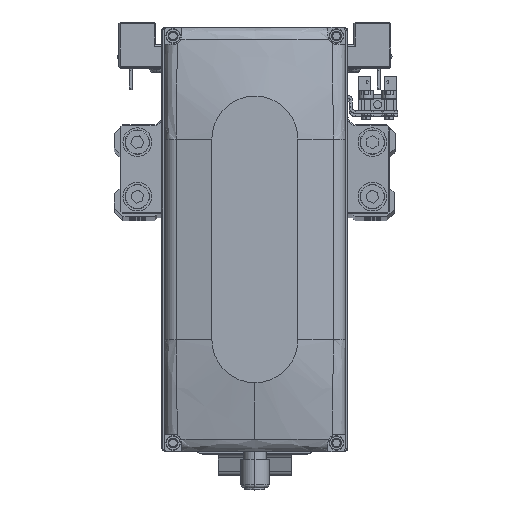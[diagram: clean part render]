
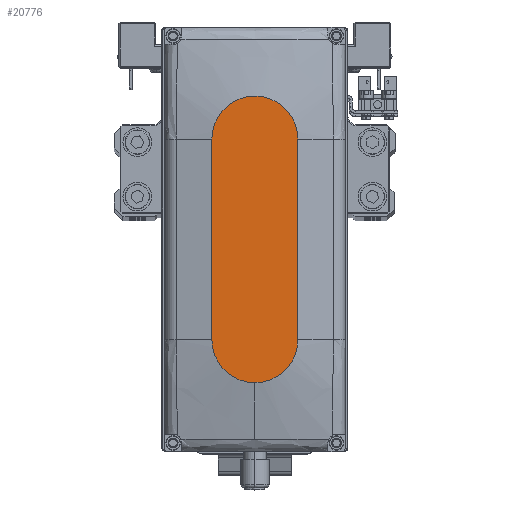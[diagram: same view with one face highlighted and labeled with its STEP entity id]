
A CAD part, top view. The second image highlights one B-rep face of the part: STEP entity #20776.
In plain terms, the highlighted planar face has unit normal (0, 0, 1).
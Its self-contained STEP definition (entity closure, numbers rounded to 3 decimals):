
#577 = EDGE_CURVE ( 'NONE', #19361, #2032, #13054, .T. ) ;
#802 = CIRCLE ( 'NONE', #6359, 15. ) ;
#1090 = VERTEX_POINT ( 'NONE', #7505 ) ;
#2032 = VERTEX_POINT ( 'NONE', #29714 ) ;
#2452 = CARTESIAN_POINT ( 'NONE',  ( -35., -15., 35. ) ) ;
#3568 = ORIENTED_EDGE ( 'NONE', *, *, #21820, .T. ) ;
#3906 = EDGE_LOOP ( 'NONE', ( #26506, #35965, #8618, #3568, #7624 ) ) ;
#5938 = CARTESIAN_POINT ( 'NONE',  ( -35., 0., 35. ) ) ;
#6359 = AXIS2_PLACEMENT_3D ( 'NONE', #23360, #36535, #6917 ) ;
#6917 = DIRECTION ( 'NONE',  ( 1., 0., 0. ) ) ;
#7117 = CIRCLE ( 'NONE', #31309, 15. ) ;
#7505 = CARTESIAN_POINT ( 'NONE',  ( -35., -15., 35. ) ) ;
#7624 = ORIENTED_EDGE ( 'NONE', *, *, #39279, .T. ) ;
#8267 = EDGE_CURVE ( 'NONE', #2032, #1090, #7117, .T. ) ;
#8498 = VERTEX_POINT ( 'NONE', #18406 ) ;
#8618 = ORIENTED_EDGE ( 'NONE', *, *, #36180, .T. ) ;
#9648 = DIRECTION ( 'NONE',  ( 1., 0., 0. ) ) ;
#10554 = AXIS2_PLACEMENT_3D ( 'NONE', #11838, #25036, #38220 ) ;
#11838 = CARTESIAN_POINT ( 'NONE',  ( 35., 0., 35. ) ) ;
#12917 = PLANE ( 'NONE',  #22266 ) ;
#13054 = LINE ( 'NONE', #26246, #39863 ) ;
#15682 = DIRECTION ( 'NONE',  ( 1., 0., 0. ) ) ;
#16686 = CARTESIAN_POINT ( 'NONE',  ( 35., -15., 35. ) ) ;
#18324 = VECTOR ( 'NONE', #15682, 1000. ) ;
#18406 = CARTESIAN_POINT ( 'NONE',  ( 50., 0., 35. ) ) ;
#19154 = DIRECTION ( 'NONE',  ( 0., 0., 1. ) ) ;
#19361 = VERTEX_POINT ( 'NONE', #40472 ) ;
#20776 = ADVANCED_FACE ( 'NONE', ( #42522 ), #12917, .T. ) ;
#21820 = EDGE_CURVE ( 'NONE', #28947, #8498, #802, .T. ) ;
#22266 = AXIS2_PLACEMENT_3D ( 'NONE', #26099, #39260, #9648 ) ;
#23360 = CARTESIAN_POINT ( 'NONE',  ( 35., 0., 35. ) ) ;
#25036 = DIRECTION ( 'NONE',  ( 0., 0., 1. ) ) ;
#26099 = CARTESIAN_POINT ( 'NONE',  ( 0., 0., 35. ) ) ;
#26246 = CARTESIAN_POINT ( 'NONE',  ( -35., 15., 35. ) ) ;
#26506 = ORIENTED_EDGE ( 'NONE', *, *, #577, .T. ) ;
#28947 = VERTEX_POINT ( 'NONE', #16686 ) ;
#29198 = CIRCLE ( 'NONE', #10554, 15. ) ;
#29714 = CARTESIAN_POINT ( 'NONE',  ( -35., 15., 35. ) ) ;
#31309 = AXIS2_PLACEMENT_3D ( 'NONE', #5938, #19154, #32320 ) ;
#32099 = LINE ( 'NONE', #2452, #18324 ) ;
#32320 = DIRECTION ( 'NONE',  ( 1., 0., 0. ) ) ;
#35965 = ORIENTED_EDGE ( 'NONE', *, *, #8267, .T. ) ;
#36180 = EDGE_CURVE ( 'NONE', #1090, #28947, #32099, .T. ) ;
#36535 = DIRECTION ( 'NONE',  ( 0., 0., 1. ) ) ;
#38220 = DIRECTION ( 'NONE',  ( 1., 0., 0. ) ) ;
#39260 = DIRECTION ( 'NONE',  ( 0., 0., 1. ) ) ;
#39279 = EDGE_CURVE ( 'NONE', #8498, #19361, #29198, .T. ) ;
#39407 = DIRECTION ( 'NONE',  ( -1., 0., 0. ) ) ;
#39863 = VECTOR ( 'NONE', #39407, 1000. ) ;
#40472 = CARTESIAN_POINT ( 'NONE',  ( 35., 15., 35. ) ) ;
#42522 = FACE_OUTER_BOUND ( 'NONE', #3906, .T. ) ;
